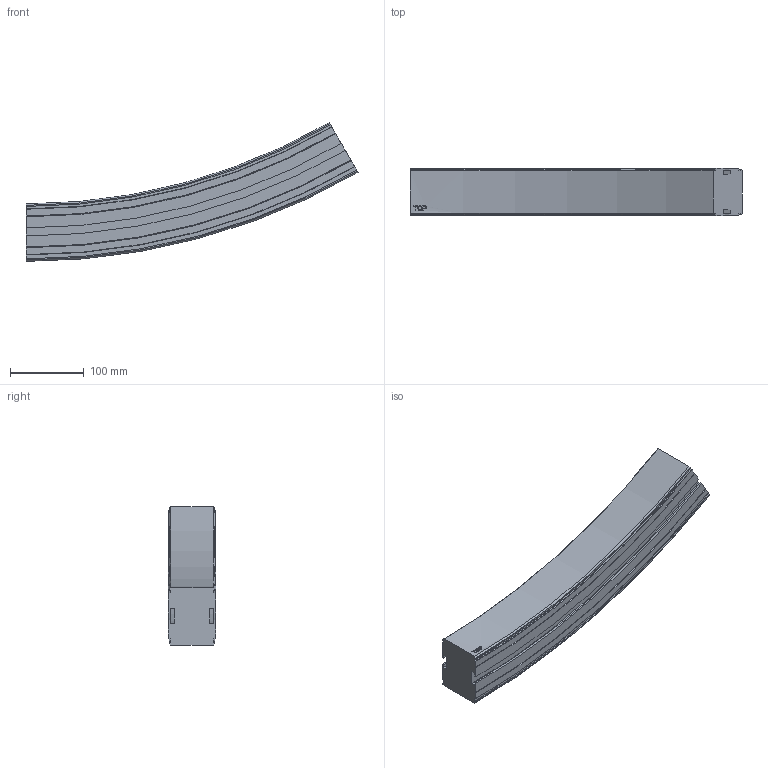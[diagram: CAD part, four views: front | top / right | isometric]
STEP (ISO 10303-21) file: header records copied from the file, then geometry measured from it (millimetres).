
FILE_DESCRIPTION((''),'2;1');
FILE_NAME('C:\Vault Klient\Projekt\Koncept konstruktion\Serie 620 Balk\620-5660_UP.stp','2009-11-26T15:53:32',('Mathias'),(''),'Autodesk Inventor 2010','Autodesk Inventor 2010','');
FILE_SCHEMA(('AUTOMOTIVE_DESIGN { 1 0 10303 214 1 1 1 1 }'));
Length unit declared in the file: millimetre
Products named in the file (1): 620-5660_UP
Bounding box: 450 x 64 x 188.13 mm (x, y, z)
Volume: 2096477 mm3; surface area: 171793.6 mm2
Topology: 1 solids, 1 shells, 93 faces, 258 edges, 172 vertices
Faces by surface type: plane 40, cylinder 23, bspline 14, cone 12, torus 4
Entity records: 3437 total; most frequent: CARTESIAN_POINT 1002, ORIENTED_EDGE 516, DIRECTION 472, EDGE_CURVE 258, VERTEX_POINT 172, AXIS2_PLACEMENT_3D 162, VECTOR 148, LINE 148
